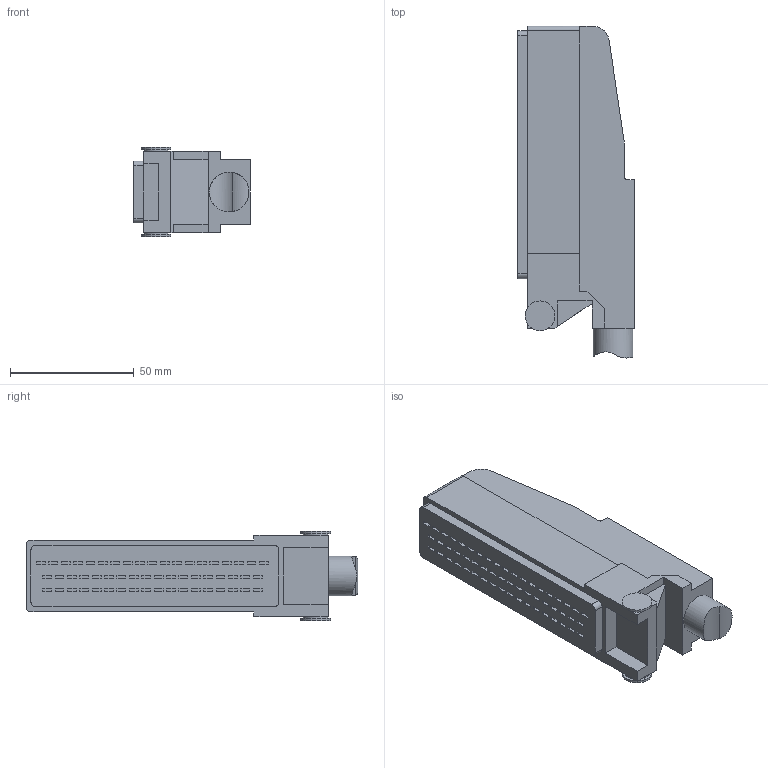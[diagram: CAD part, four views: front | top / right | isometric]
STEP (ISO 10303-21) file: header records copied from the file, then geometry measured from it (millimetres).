
FILE_DESCRIPTION(/* description */ ('STEP AP203'),/* implementation_level */ '2;1');
FILE_NAME(/* name */ 'P_MZ_Z_2045',/* time_stamp */ '2025-08-13T10:07:18+02:00',/* author */ ('License CC BY-ND 4.0'),/* organization */ ('CADENAS'),/* preprocessor_version */ 'ST-DEVELOPER v19.3',/* originating_system */ 'PARTsolutions',/* authorisation */ ' ');
FILE_SCHEMA (('CONFIG_CONTROL_DESIGN'));
Length unit declared in the file: millimetre
Products named in the file (1): P_MZ_Z_2045
Bounding box: 47 x 134 x 36 mm (x, y, z)
Volume: 142022.8 mm3; surface area: 24852.9 mm2
Topology: 1 solids, 1 shells, 338 faces, 827 edges, 550 vertices
Faces by surface type: plane 322, cylinder 16
Full cylindrical faces by diameter (mm): 10 x2, 12 x2, 16 x1
Entity records: 9750 total; most frequent: CARTESIAN_POINT 1737, ORIENTED_EDGE 1638, DIRECTION 1522, EDGE_CURVE 819, LINE 786, VECTOR 786, VERTEX_POINT 547, EDGE_LOOP 402
